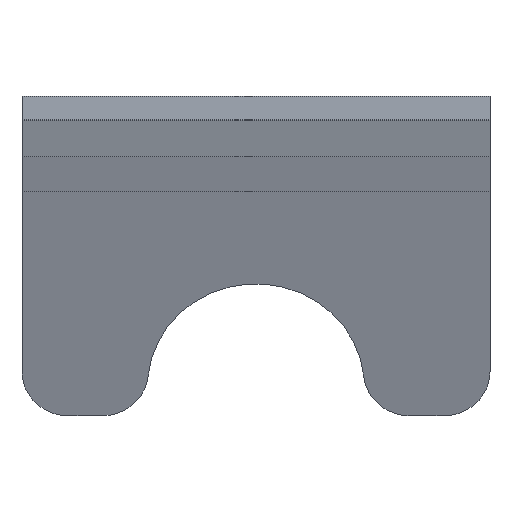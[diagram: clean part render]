
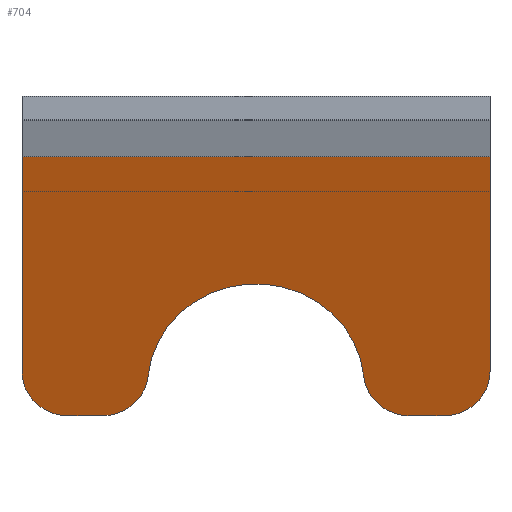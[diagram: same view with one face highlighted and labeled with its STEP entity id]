
A CAD part, front view. The second image highlights one B-rep face of the part: STEP entity #704.
In plain terms, the highlighted planar face has unit normal (0, -0.943, -0.334).
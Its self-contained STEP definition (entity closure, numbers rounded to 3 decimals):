
#14 = LINE ( 'NONE', #247, #259 ) ;
#17 = EDGE_CURVE ( 'NONE', #99, #636, #71, .T. ) ;
#35 = CARTESIAN_POINT ( 'NONE',  ( 2., -5.59, -7.637 ) ) ;
#42 = LINE ( 'NONE', #593, #702 ) ;
#55 = CARTESIAN_POINT ( 'NONE',  ( 20., -8.848, 1.548 ) ) ;
#71 = LINE ( 'NONE', #395, #764 ) ;
#80 = ORIENTED_EDGE ( 'NONE', *, *, #153, .T. ) ;
#85 = VERTEX_POINT ( 'NONE', #192 ) ;
#95 = AXIS2_PLACEMENT_3D ( 'NONE', #35, #521, #114 ) ;
#98 = DIRECTION ( 'NONE',  ( 0., 0.334, -0.942 ) ) ;
#99 = VERTEX_POINT ( 'NONE', #55 ) ;
#114 = DIRECTION ( 'NONE',  ( 0., 0.334, -0.942 ) ) ;
#137 = AXIS2_PLACEMENT_3D ( 'NONE', #316, #786, #382 ) ;
#138 = VERTEX_POINT ( 'NONE', #294 ) ;
#140 = VERTEX_POINT ( 'NONE', #173 ) ;
#149 = CIRCLE ( 'NONE', #522, 2. ) ;
#153 = EDGE_CURVE ( 'NONE', #772, #859, #516, .T. ) ;
#173 = CARTESIAN_POINT ( 'NONE',  ( 14.601, -5.525, -7.82 ) ) ;
#174 = CARTESIAN_POINT ( 'NONE',  ( 0., -5.59, -7.637 ) ) ;
#192 = CARTESIAN_POINT ( 'NONE',  ( 16.592, -4.922, -9.522 ) ) ;
#194 = EDGE_CURVE ( 'NONE', #772, #636, #644, .T. ) ;
#219 = DIRECTION ( 'NONE',  ( 0., -0.942, -0.334 ) ) ;
#223 = DIRECTION ( 'NONE',  ( 0., -0.942, -0.334 ) ) ;
#227 = ORIENTED_EDGE ( 'NONE', *, *, #662, .T. ) ;
#238 = EDGE_CURVE ( 'NONE', #596, #859, #14, .T. ) ;
#244 = CARTESIAN_POINT ( 'NONE',  ( 0., -8.848, 1.548 ) ) ;
#247 = CARTESIAN_POINT ( 'NONE',  ( 20., -4.922, -9.522 ) ) ;
#251 = CIRCLE ( 'NONE', #785, 2. ) ;
#254 = ORIENTED_EDGE ( 'NONE', *, *, #692, .T. ) ;
#259 = VECTOR ( 'NONE', #384, 1000. ) ;
#261 = VERTEX_POINT ( 'NONE', #706 ) ;
#278 = DIRECTION ( 'NONE',  ( 0., -0.942, -0.334 ) ) ;
#291 = ORIENTED_EDGE ( 'NONE', *, *, #429, .F. ) ;
#294 = CARTESIAN_POINT ( 'NONE',  ( 5.389, -5.525, -7.82 ) ) ;
#304 = DIRECTION ( 'NONE',  ( 0., 0.334, -0.942 ) ) ;
#309 = FACE_OUTER_BOUND ( 'NONE', #733, .T. ) ;
#316 = CARTESIAN_POINT ( 'NONE',  ( 9.995, -5.375, -8.243 ) ) ;
#331 = EDGE_CURVE ( 'NONE', #596, #138, #251, .T. ) ;
#332 = CARTESIAN_POINT ( 'NONE',  ( 2., -4.922, -9.522 ) ) ;
#382 = DIRECTION ( 'NONE',  ( 0., 0.334, -0.942 ) ) ;
#384 = DIRECTION ( 'NONE',  ( -1., 0., 0. ) ) ;
#395 = CARTESIAN_POINT ( 'NONE',  ( 20., -8.848, 1.548 ) ) ;
#396 = CARTESIAN_POINT ( 'NONE',  ( 0., -8.848, 1.548 ) ) ;
#423 = AXIS2_PLACEMENT_3D ( 'NONE', #493, #219, #98 ) ;
#429 = EDGE_CURVE ( 'NONE', #140, #138, #806, .T. ) ;
#437 = DIRECTION ( 'NONE',  ( 0., -0.334, 0.942 ) ) ;
#476 = VECTOR ( 'NONE', #863, 1000. ) ;
#477 = ORIENTED_EDGE ( 'NONE', *, *, #238, .F. ) ;
#493 = CARTESIAN_POINT ( 'NONE',  ( 16.592, -5.59, -7.637 ) ) ;
#503 = ORIENTED_EDGE ( 'NONE', *, *, #629, .F. ) ;
#516 = CIRCLE ( 'NONE', #95, 2. ) ;
#521 = DIRECTION ( 'NONE',  ( 0., -0.942, -0.334 ) ) ;
#522 = AXIS2_PLACEMENT_3D ( 'NONE', #637, #223, #701 ) ;
#553 = ORIENTED_EDGE ( 'NONE', *, *, #194, .F. ) ;
#574 = PLANE ( 'NONE',  #653 ) ;
#592 = CARTESIAN_POINT ( 'NONE',  ( 18., -4.922, -9.522 ) ) ;
#593 = CARTESIAN_POINT ( 'NONE',  ( 20., -4.922, -9.522 ) ) ;
#594 = VERTEX_POINT ( 'NONE', #592 ) ;
#596 = VERTEX_POINT ( 'NONE', #665 ) ;
#603 = ORIENTED_EDGE ( 'NONE', *, *, #17, .T. ) ;
#629 = EDGE_CURVE ( 'NONE', #594, #85, #42, .T. ) ;
#636 = VERTEX_POINT ( 'NONE', #396 ) ;
#637 = CARTESIAN_POINT ( 'NONE',  ( 18., -5.59, -7.637 ) ) ;
#639 = CARTESIAN_POINT ( 'NONE',  ( 20., -8.848, 1.548 ) ) ;
#644 = LINE ( 'NONE', #244, #476 ) ;
#646 = VECTOR ( 'NONE', #437, 1000. ) ;
#653 = AXIS2_PLACEMENT_3D ( 'NONE', #639, #703, #304 ) ;
#654 = ORIENTED_EDGE ( 'NONE', *, *, #331, .T. ) ;
#659 = EDGE_CURVE ( 'NONE', #140, #85, #876, .T. ) ;
#662 = EDGE_CURVE ( 'NONE', #594, #261, #149, .T. ) ;
#665 = CARTESIAN_POINT ( 'NONE',  ( 3.398, -4.922, -9.522 ) ) ;
#667 = DIRECTION ( 'NONE',  ( -1., 0., 0. ) ) ;
#686 = CARTESIAN_POINT ( 'NONE',  ( 3.398, -5.59, -7.637 ) ) ;
#692 = EDGE_CURVE ( 'NONE', #261, #99, #853, .T. ) ;
#701 = DIRECTION ( 'NONE',  ( 0., 0.334, -0.942 ) ) ;
#702 = VECTOR ( 'NONE', #667, 1000. ) ;
#703 = DIRECTION ( 'NONE',  ( 0., -0.942, -0.334 ) ) ;
#704 = ADVANCED_FACE ( 'NONE', ( #309 ), #574, .T. ) ;
#706 = CARTESIAN_POINT ( 'NONE',  ( 20., -5.59, -7.637 ) ) ;
#733 = EDGE_LOOP ( 'NONE', ( #553, #80, #477, #654, #291, #809, #503, #227, #254, #603 ) ) ;
#748 = DIRECTION ( 'NONE',  ( 0., 0.334, -0.942 ) ) ;
#764 = VECTOR ( 'NONE', #800, 1000. ) ;
#772 = VERTEX_POINT ( 'NONE', #174 ) ;
#785 = AXIS2_PLACEMENT_3D ( 'NONE', #686, #278, #748 ) ;
#786 = DIRECTION ( 'NONE',  ( 0., -0.942, -0.334 ) ) ;
#800 = DIRECTION ( 'NONE',  ( -1., 0., 0. ) ) ;
#806 = CIRCLE ( 'NONE', #137, 4.628 ) ;
#809 = ORIENTED_EDGE ( 'NONE', *, *, #659, .T. ) ;
#817 = CARTESIAN_POINT ( 'NONE',  ( 20., -8.848, 1.548 ) ) ;
#853 = LINE ( 'NONE', #817, #646 ) ;
#859 = VERTEX_POINT ( 'NONE', #332 ) ;
#863 = DIRECTION ( 'NONE',  ( 0., -0.334, 0.942 ) ) ;
#876 = CIRCLE ( 'NONE', #423, 2. ) ;
